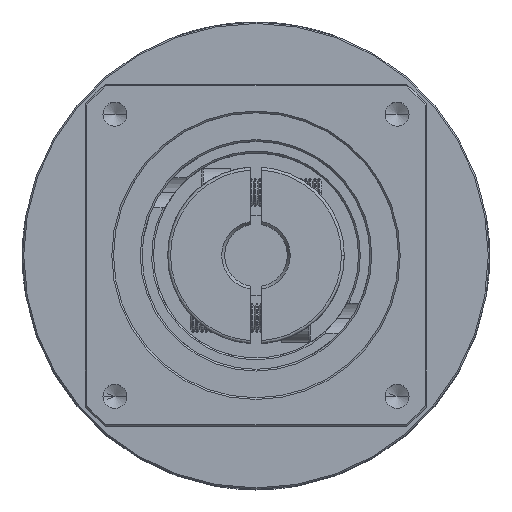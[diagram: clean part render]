
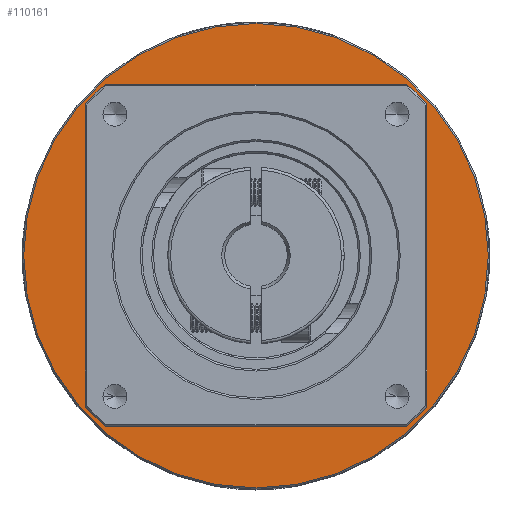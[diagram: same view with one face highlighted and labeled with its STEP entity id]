
A CAD part, top view. The second image highlights one B-rep face of the part: STEP entity #110161.
In plain terms, the highlighted planar face has unit normal (0, 0, 1).
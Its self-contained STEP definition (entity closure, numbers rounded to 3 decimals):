
#3048 = EDGE_CURVE ( 'NONE', #17758, #89177, #11691, .T. ) ;
#3341 = PLANE ( 'NONE',  #32783 ) ;
#5389 = CARTESIAN_POINT ( 'NONE',  ( -65.061, 18.526, -26.443 ) ) ;
#6947 = EDGE_CURVE ( 'NONE', #89177, #17758, #7720, .T. ) ;
#7720 = CIRCLE ( 'NONE', #35025, 30. ) ;
#11691 = CIRCLE ( 'NONE', #16718, 30. ) ;
#14297 = DIRECTION ( 'NONE',  ( -1., 0., 0. ) ) ;
#16718 = AXIS2_PLACEMENT_3D ( 'NONE', #55602, #55208, #54830 ) ;
#17758 = VERTEX_POINT ( 'NONE', #101175 ) ;
#20948 = ORIENTED_EDGE ( 'NONE', *, *, #6947, .T. ) ;
#23226 = CIRCLE ( 'NONE', #78358, 40.75 ) ;
#26447 = CARTESIAN_POINT ( 'NONE',  ( -95.061, 18.526, -26.443 ) ) ;
#28008 = FACE_OUTER_BOUND ( 'NONE', #103461, .T. ) ;
#29222 = ORIENTED_EDGE ( 'NONE', *, *, #32676, .F. ) ;
#32676 = EDGE_CURVE ( 'NONE', #34772, #51562, #71624, .T. ) ;
#32783 = AXIS2_PLACEMENT_3D ( 'NONE', #92411, #39020, #101314 ) ;
#34772 = VERTEX_POINT ( 'NONE', #74068 ) ;
#35025 = AXIS2_PLACEMENT_3D ( 'NONE', #5389, #67575, #14297 ) ;
#39020 = DIRECTION ( 'NONE',  ( 0., 0., 1. ) ) ;
#42738 = CARTESIAN_POINT ( 'NONE',  ( -65.061, 18.526, -26.443 ) ) ;
#50542 = DIRECTION ( 'NONE',  ( 0., 0., -1. ) ) ;
#51562 = VERTEX_POINT ( 'NONE', #108454 ) ;
#51712 = DIRECTION ( 'NONE',  ( 0., 1., 0. ) ) ;
#54830 = DIRECTION ( 'NONE',  ( -1., 0., 0. ) ) ;
#55208 = DIRECTION ( 'NONE',  ( 0., 0., -1. ) ) ;
#55602 = CARTESIAN_POINT ( 'NONE',  ( -65.061, 18.526, -26.443 ) ) ;
#63928 = AXIS2_PLACEMENT_3D ( 'NONE', #42738, #105002, #51712 ) ;
#67575 = DIRECTION ( 'NONE',  ( 0., 0., -1. ) ) ;
#70004 = EDGE_LOOP ( 'NONE', ( #20948, #107816 ) ) ;
#71624 = CIRCLE ( 'NONE', #63928, 40.75 ) ;
#74068 = CARTESIAN_POINT ( 'NONE',  ( -65.061, 59.276, -26.443 ) ) ;
#78358 = AXIS2_PLACEMENT_3D ( 'NONE', #103833, #50542, #112701 ) ;
#89177 = VERTEX_POINT ( 'NONE', #26447 ) ;
#92411 = CARTESIAN_POINT ( 'NONE',  ( -65.061, 18.526, -26.443 ) ) ;
#96257 = FACE_BOUND ( 'NONE', #70004, .T. ) ;
#98648 = ORIENTED_EDGE ( 'NONE', *, *, #105089, .F. ) ;
#101175 = CARTESIAN_POINT ( 'NONE',  ( -35.061, 18.526, -26.443 ) ) ;
#101314 = DIRECTION ( 'NONE',  ( 1., 0., 0. ) ) ;
#103461 = EDGE_LOOP ( 'NONE', ( #29222, #98648 ) ) ;
#103833 = CARTESIAN_POINT ( 'NONE',  ( -65.061, 18.526, -26.443 ) ) ;
#105002 = DIRECTION ( 'NONE',  ( 0., 0., -1. ) ) ;
#105089 = EDGE_CURVE ( 'NONE', #51562, #34772, #23226, .T. ) ;
#107816 = ORIENTED_EDGE ( 'NONE', *, *, #3048, .T. ) ;
#108454 = CARTESIAN_POINT ( 'NONE',  ( -65.061, -22.224, -26.443 ) ) ;
#110161 = ADVANCED_FACE ( 'NONE', ( #28008, #96257 ), #3341, .T. ) ;
#112701 = DIRECTION ( 'NONE',  ( 0., 1., 0. ) ) ;
